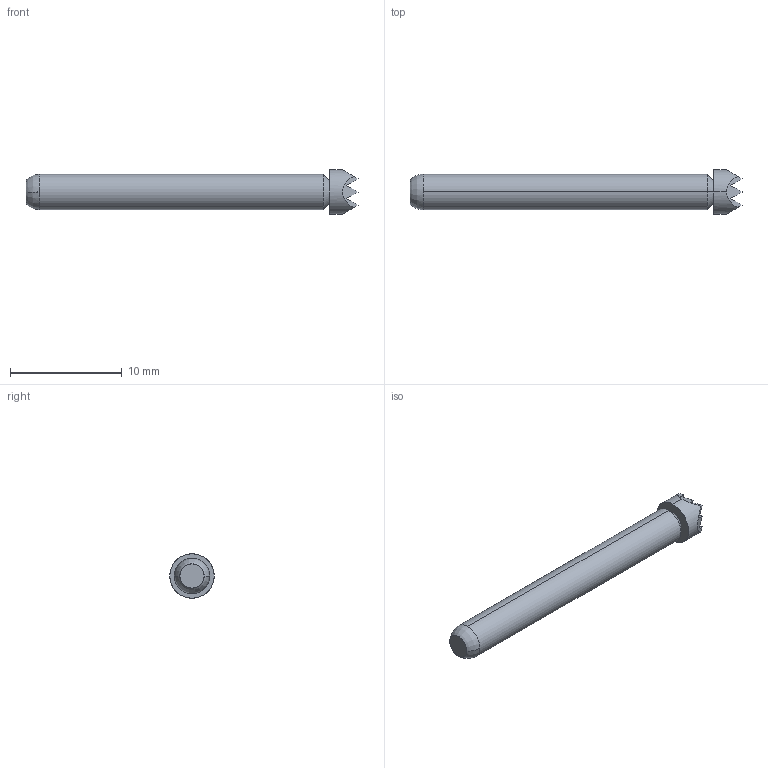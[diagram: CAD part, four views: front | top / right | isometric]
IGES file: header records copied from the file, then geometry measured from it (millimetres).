
Start section: SolidWorks IGES file using analytic representation for surfaces
Global section: file name: Z:\probe solid model mockups\Solidworks models\IGES Files\EPA-5 IGES files\EPA-5H Full.IGS; native system: SolidWorks 2006 by SolidWorks Corporation; preprocessor: SolidWorks 2006 by SolidWorks Corporation; author: tsakatani; date: 080103.110743; units: inch
Bounding box: 29.72 x 3.96 x 3.96 mm (x, y, z)
Surface area: 327.9 mm2 (no closed solid volume)
Topology: 0 solids, 0 shells, 38 faces, 290 edges, 290 vertices
Faces by surface type: bspline 30, revolution 8
